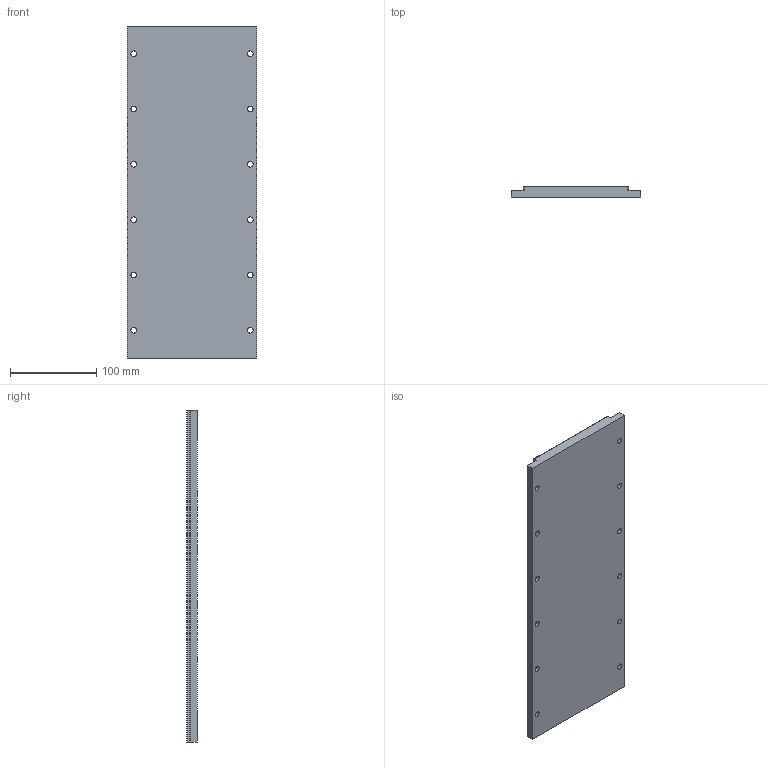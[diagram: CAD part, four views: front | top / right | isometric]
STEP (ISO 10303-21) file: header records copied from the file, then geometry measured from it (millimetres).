
FILE_DESCRIPTION (( 'STEP AP203' ), '1' );
FILE_NAME ('LMS5S4.STEP', '2007-05-16T11:54:06', ( 'MH0078' ), ( 'Hiwin MikroSystem Corp.' ), 'SwSTEP 2.0', 'SolidWorks 2007', '' );
FILE_SCHEMA (( 'CONFIG_CONTROL_DESIGN' ));
Length unit declared in the file: millimetre
Products named in the file (3): LMS5S4; C-LMS5S4
Assembly tree (2 placements, depth 2):
  LMS5S4
    LMS5S4
    C-LMS5S4
Bounding box: 150 x 12.5 x 384 mm (x, y, z)
Volume: 663467.5 mm3; surface area: 228137.5 mm2
Topology: 2 solids, 2 shells, 84 faces, 204 edges, 136 vertices
Faces by surface type: cylinder 52, plane 32
Entity records: 2865 total; most frequent: DIRECTION 486, CARTESIAN_POINT 429, ORIENTED_EDGE 408, EDGE_CURVE 204, AXIS2_PLACEMENT_3D 193, VERTEX_POINT 136, EDGE_LOOP 120, CIRCLE 104
